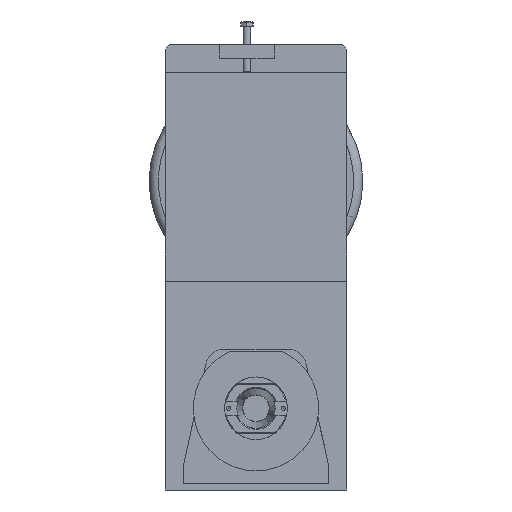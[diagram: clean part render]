
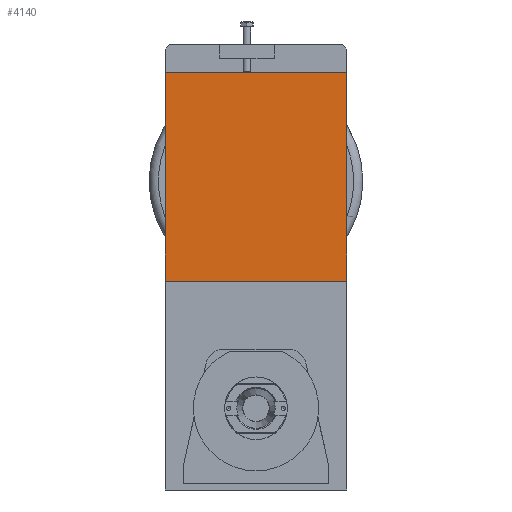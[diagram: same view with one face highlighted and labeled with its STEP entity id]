
A CAD part, front view. The second image highlights one B-rep face of the part: STEP entity #4140.
In plain terms, the highlighted planar face has unit normal (0, -1, 0).
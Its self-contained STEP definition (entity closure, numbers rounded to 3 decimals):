
#4084=CARTESIAN_POINT('',(100.,-2.,140.0));
#4085=VERTEX_POINT('',#4084);
#4086=CARTESIAN_POINT('',(-100.,-2.,140.));
#4087=VERTEX_POINT('',#4086);
#4088=CARTESIAN_POINT('',(100.,-2.,140.0));
#4089=DIRECTION('',(-1.0,0.0,0.0));
#4090=VECTOR('',#4089,200.);
#4091=LINE('',#4088,#4090);
#4092=EDGE_CURVE('',#4085,#4087,#4091,.T.);
#4110=CARTESIAN_POINT('',(0.,-2.,255.));
#4111=DIRECTION('',(0.0,-1.0,0.0));
#4112=DIRECTION('',(1.0,0.0,0.0));
#4113=AXIS2_PLACEMENT_3D('',#4110,#4111,#4112);
#4114=PLANE('',#4113);
#4115=CARTESIAN_POINT('',(-100.,-2.,370.0));
#4116=VERTEX_POINT('',#4115);
#4117=CARTESIAN_POINT('',(100.,-2.,370.0));
#4118=VERTEX_POINT('',#4117);
#4119=CARTESIAN_POINT('',(-100.,-2.,370.0));
#4120=DIRECTION('',(1.0,0.0,0.0));
#4121=VECTOR('',#4120,200.);
#4122=LINE('',#4119,#4121);
#4123=EDGE_CURVE('',#4116,#4118,#4122,.T.);
#4124=ORIENTED_EDGE('',*,*,#4123,.F.);
#4125=CARTESIAN_POINT('',(-100.,-2.,140.0));
#4126=DIRECTION('',(0.0,0.0,1.0));
#4127=VECTOR('',#4126,230.0);
#4128=LINE('',#4125,#4127);
#4129=EDGE_CURVE('',#4087,#4116,#4128,.T.);
#4130=ORIENTED_EDGE('',*,*,#4129,.F.);
#4131=ORIENTED_EDGE('',*,*,#4092,.F.);
#4132=CARTESIAN_POINT('',(100.,-2.,370.0));
#4133=DIRECTION('',(0.0,0.0,-1.0));
#4134=VECTOR('',#4133,230.0);
#4135=LINE('',#4132,#4134);
#4136=EDGE_CURVE('',#4118,#4085,#4135,.T.);
#4137=ORIENTED_EDGE('',*,*,#4136,.F.);
#4138=EDGE_LOOP('',(#4124,#4130,#4131,#4137));
#4139=FACE_OUTER_BOUND('',#4138,.T.);
#4140=ADVANCED_FACE('',(#4139),#4114,.T.);
